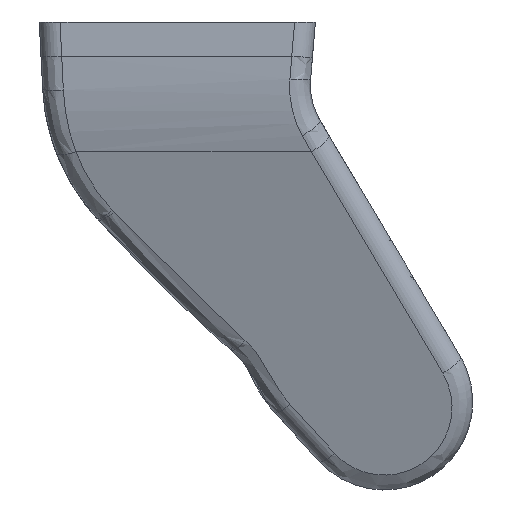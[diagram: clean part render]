
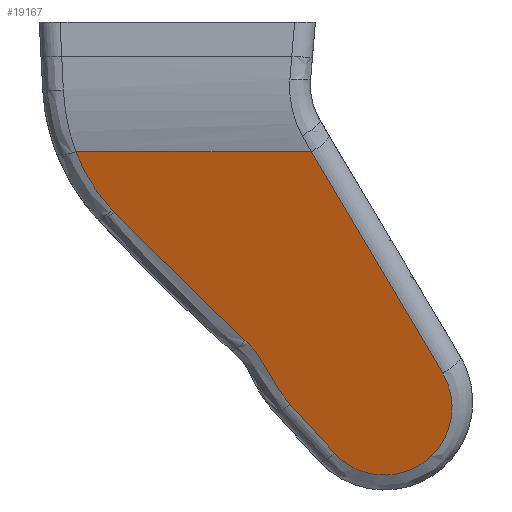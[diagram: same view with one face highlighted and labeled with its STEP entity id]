
A CAD part, left-side view. The second image highlights one B-rep face of the part: STEP entity #19167.
In plain terms, the highlighted planar face has unit normal (-0.961, 0, -0.277).
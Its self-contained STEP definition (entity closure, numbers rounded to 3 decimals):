
#1963 = EDGE_LOOP ( 'NONE', ( #21283, #21285, #21287, #21289, #21291, #21293, #21295, #21296 ) ) ;
#2102 = CARTESIAN_POINT ( 'NONE',  ( -667.691, 167.015, 28.563 ) ) ;
#2105 = CARTESIAN_POINT ( 'NONE',  ( -667.691, 132.902, 28.563 ) ) ;
#2106 = CARTESIAN_POINT ( 'NONE',  ( -665.25, 161.756, 20.095 ) ) ;
#2107 = CARTESIAN_POINT ( 'NONE',  ( -659.804, 142.5, 1.205 ) ) ;
#2108 = CARTESIAN_POINT ( 'NONE',  ( -657.137, 135.984, -8.048 ) ) ;
#2109 = CARTESIAN_POINT ( 'NONE',  ( -655.104, 129.527, -15.099 ) ) ;
#2110 = CARTESIAN_POINT ( 'NONE',  ( -665.174, 161.516, 19.833 ) ) ;
#2111 = CARTESIAN_POINT ( 'NONE',  ( -658.455, 113.874, -3.476 ) ) ;
#3584 = VERTEX_POINT ( 'NONE', #2102 ) ;
#3587 = VERTEX_POINT ( 'NONE', #2105 ) ;
#3588 = VERTEX_POINT ( 'NONE', #2106 ) ;
#3589 = VERTEX_POINT ( 'NONE', #2107 ) ;
#3590 = VERTEX_POINT ( 'NONE', #2108 ) ;
#3591 = VERTEX_POINT ( 'NONE', #2109 ) ;
#3592 = VERTEX_POINT ( 'NONE', #2110 ) ;
#3593 = VERTEX_POINT ( 'NONE', #2111 ) ;
#6795 =( BOUNDED_CURVE ( )  B_SPLINE_CURVE ( 3, ( #10668, #10673, #10674, #10675 ),
 .UNSPECIFIED., .F., .T. ) 
 B_SPLINE_CURVE_WITH_KNOTS ( ( 4, 4 ),
 ( 3.876, 4.902 ),
 .UNSPECIFIED. ) 
 CURVE ( )  GEOMETRIC_REPRESENTATION_ITEM ( )  RATIONAL_B_SPLINE_CURVE ( ( 1., 0.914, 0.914, 1. ) ) 
 REPRESENTATION_ITEM ( '' )  );
#6796 =( BOUNDED_CURVE ( )  B_SPLINE_CURVE ( 3, ( #10672, #10683, #10684, #10685 ),
 .UNSPECIFIED., .F., .T. ) 
 B_SPLINE_CURVE_WITH_KNOTS ( ( 4, 4 ),
 ( 3.971, 4.342 ),
 .UNSPECIFIED. ) 
 CURVE ( )  GEOMETRIC_REPRESENTATION_ITEM ( )  RATIONAL_B_SPLINE_CURVE ( ( 1., 0.989, 0.989, 1. ) ) 
 REPRESENTATION_ITEM ( '' )  );
#6797 =( BOUNDED_CURVE ( )  B_SPLINE_CURVE ( 3, ( #10682, #10703, #10704, #10705 ),
 .UNSPECIFIED., .F., .T. ) 
 B_SPLINE_CURVE_WITH_KNOTS ( ( 4, 4 ),
 ( 1.035, 3.971 ),
 .UNSPECIFIED. ) 
 CURVE ( )  GEOMETRIC_REPRESENTATION_ITEM ( )  RATIONAL_B_SPLINE_CURVE ( ( 1., 0.402, 0.402, 1. ) ) 
 REPRESENTATION_ITEM ( '' )  );
#9454 = VECTOR ( 'NONE', #10631, 1000. ) ;
#9457 = VECTOR ( 'NONE', #10660, 1000. ) ;
#9465 = VECTOR ( 'NONE', #10700, 1000. ) ;
#9476 = VECTOR ( 'NONE', #10751, 1000. ) ;
#9562 = AXIS2_PLACEMENT_3D ( 'NONE', #11335, #11341, #11342 ) ;
#10629 = LINE ( 'NONE', #10630, #9454 ) ;
#10630 = CARTESIAN_POINT ( 'NONE',  ( -659.447, 143.323, -0.033 ) ) ;
#10631 = DIRECTION ( 'NONE',  ( -0.208, 0.661, 0.721 ) ) ;
#10658 = LINE ( 'NONE', #10659, #9457 ) ;
#10659 = CARTESIAN_POINT ( 'NONE',  ( -664.901, 127.153, 18.883 ) ) ;
#10660 = DIRECTION ( 'NONE',  ( 0.241, -0.496, -0.835 ) ) ;
#10668 = CARTESIAN_POINT ( 'NONE',  ( -659.804, 142.5, 1.205 ) ) ;
#10672 = CARTESIAN_POINT ( 'NONE',  ( -665.25, 161.756, 20.095 ) ) ;
#10673 = CARTESIAN_POINT ( 'NONE',  ( -661.084, 147.81, 5.646 ) ) ;
#10674 = CARTESIAN_POINT ( 'NONE',  ( -663.042, 154.743, 12.438 ) ) ;
#10675 = CARTESIAN_POINT ( 'NONE',  ( -665.174, 161.516, 19.833 ) ) ;
#10682 = CARTESIAN_POINT ( 'NONE',  ( -658.455, 113.874, -3.476 ) ) ;
#10683 = CARTESIAN_POINT ( 'NONE',  ( -665.965, 164.026, 22.574 ) ) ;
#10684 = CARTESIAN_POINT ( 'NONE',  ( -666.788, 165.799, 25.43 ) ) ;
#10685 = CARTESIAN_POINT ( 'NONE',  ( -667.691, 167.015, 28.563 ) ) ;
#10698 = LINE ( 'NONE', #10699, #9465 ) ;
#10699 = CARTESIAN_POINT ( 'NONE',  ( -667.691, 109.499, 28.563 ) ) ;
#10700 = DIRECTION ( 'NONE',  ( 0., 1., 0. ) ) ;
#10703 = CARTESIAN_POINT ( 'NONE',  ( -654.445, 105.612, -17.386 ) ) ;
#10704 = CARTESIAN_POINT ( 'NONE',  ( -651.664, 118.601, -27.03 ) ) ;
#10705 = CARTESIAN_POINT ( 'NONE',  ( -655.104, 129.527, -15.099 ) ) ;
#10749 = LINE ( 'NONE', #10750, #9476 ) ;
#10750 = CARTESIAN_POINT ( 'NONE',  ( -659.447, 143.323, -0.033 ) ) ;
#10751 = DIRECTION ( 'NONE',  ( -0.208, 0.661, 0.721 ) ) ;
#10752 = CARTESIAN_POINT ( 'NONE',  ( -657.341, 136.633, -7.339 ) ) ;
#10753 = CARTESIAN_POINT ( 'NONE',  ( -657.137, 135.984, -8.048 ) ) ;
#10758 = CARTESIAN_POINT ( 'NONE',  ( -657.564, 137.176, -6.566 ) ) ;
#10759 = CARTESIAN_POINT ( 'NONE',  ( -658.025, 138.175, -4.965 ) ) ;
#10760 = CARTESIAN_POINT ( 'NONE',  ( -658.264, 138.627, -4.136 ) ) ;
#10761 = CARTESIAN_POINT ( 'NONE',  ( -658.74, 139.543, -2.485 ) ) ;
#10762 = CARTESIAN_POINT ( 'NONE',  ( -658.977, 140.006, -1.663 ) ) ;
#10763 = CARTESIAN_POINT ( 'NONE',  ( -659.309, 140.827, -0.511 ) ) ;
#10764 = CARTESIAN_POINT ( 'NONE',  ( -659.416, 141.123, -0.142 ) ) ;
#10765 = CARTESIAN_POINT ( 'NONE',  ( -659.618, 141.772, 0.56 ) ) ;
#10766 = CARTESIAN_POINT ( 'NONE',  ( -659.714, 142.127, 0.894 ) ) ;
#10767 = CARTESIAN_POINT ( 'NONE',  ( -659.804, 142.5, 1.205 ) ) ;
#11335 = CARTESIAN_POINT ( 'NONE',  ( -667.691, 109.499, 28.563 ) ) ;
#11338 = FACE_OUTER_BOUND ( 'NONE', #1963, .T. ) ;
#11339 = PLANE ( 'NONE',  #9562 ) ;
#11341 = DIRECTION ( 'NONE',  ( -0.961, 0., -0.277 ) ) ;
#11342 = DIRECTION ( 'NONE',  ( -0.277, 0., 0.961 ) ) ;
#17305 = B_SPLINE_CURVE_WITH_KNOTS ( 'NONE', 3,
 ( #10753, #10752, #10758, #10759, #10760, #10761, #10762, #10763, #10764, #10765, #10766, #10767 ),
 .UNSPECIFIED., .F., .F.,
 ( 4, 2, 2, 2, 2, 4 ),
 ( 0., 0.003, 0.006, 0.009, 0.01, 0.012 ),
 .UNSPECIFIED. ) ;
#19063 = EDGE_CURVE ( 'NONE', #3592, #3588, #10629, .T. ) ;
#19071 = EDGE_CURVE ( 'NONE', #3587, #3593, #10658, .T. ) ;
#19075 = EDGE_CURVE ( 'NONE', #3589, #3592, #6795, .T. ) ;
#19078 = EDGE_CURVE ( 'NONE', #3588, #3584, #6796, .T. ) ;
#19083 = EDGE_CURVE ( 'NONE', #3587, #3584, #10698, .T. ) ;
#19084 = EDGE_CURVE ( 'NONE', #3593, #3591, #6797, .T. ) ;
#19097 = EDGE_CURVE ( 'NONE', #3591, #3590, #10749, .T. ) ;
#19099 = EDGE_CURVE ( 'NONE', #3590, #3589, #17305, .T. ) ;
#19167 = ADVANCED_FACE ( 'NONE', ( #11338 ), #11339, .T. ) ;
#21283 = ORIENTED_EDGE ( 'NONE', *, *, #19083, .T. ) ;
#21285 = ORIENTED_EDGE ( 'NONE', *, *, #19078, .F. ) ;
#21287 = ORIENTED_EDGE ( 'NONE', *, *, #19063, .F. ) ;
#21289 = ORIENTED_EDGE ( 'NONE', *, *, #19075, .F. ) ;
#21291 = ORIENTED_EDGE ( 'NONE', *, *, #19099, .F. ) ;
#21293 = ORIENTED_EDGE ( 'NONE', *, *, #19097, .F. ) ;
#21295 = ORIENTED_EDGE ( 'NONE', *, *, #19084, .F. ) ;
#21296 = ORIENTED_EDGE ( 'NONE', *, *, #19071, .F. ) ;
